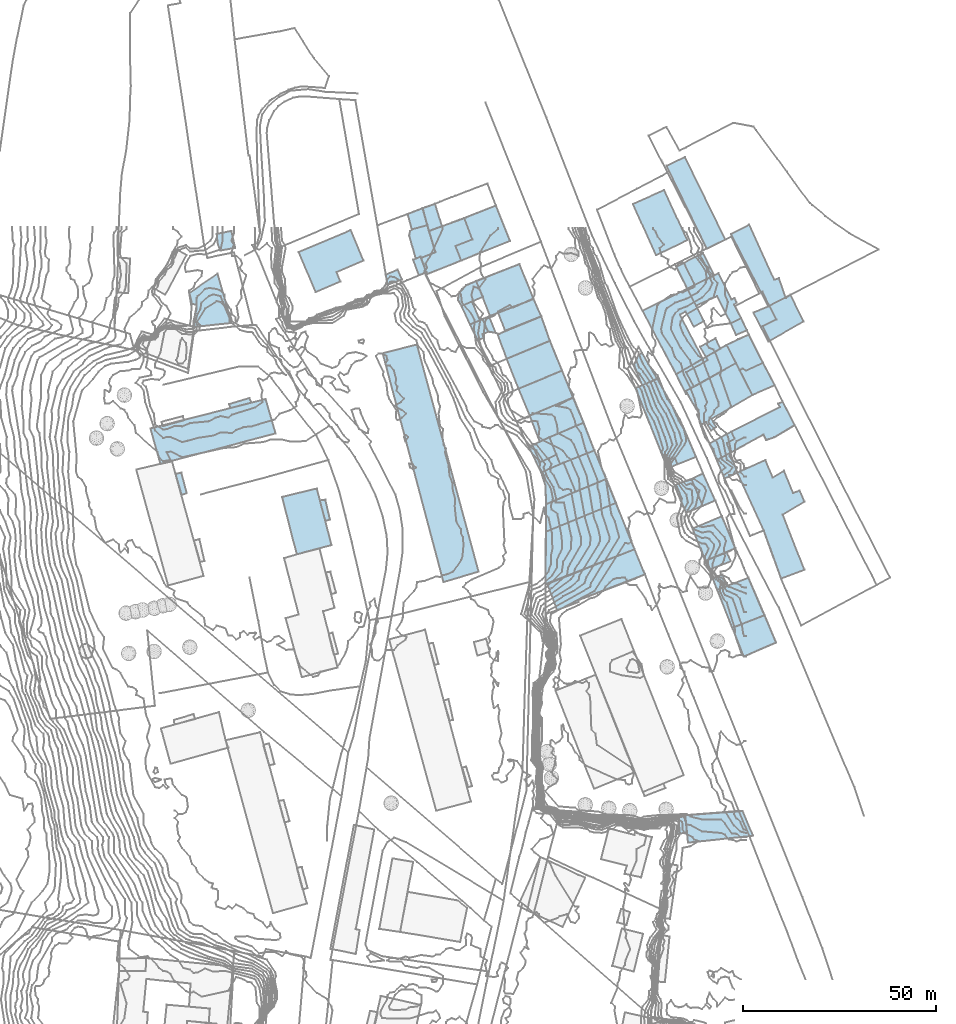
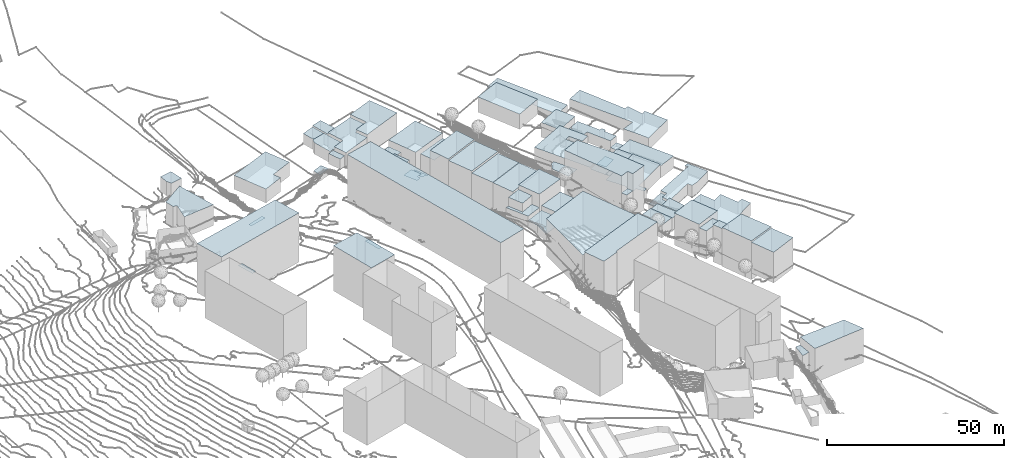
# Not in any storey, part 96 of 419: 61 roofs.
"""IFC2X3 model written with IfcOpenShell, lengths in metres."""

from ifc_helpers import new_model, si_unit, frame, origin_with_axes, place, context, subcontext, project, faceted_brep, element, save


model = new_model("IFC2X3")

# Units and contexts
model_context = context("Model", 3, precision=1e-05, world=origin_with_axes())
body_context = subcontext(model_context, "Body", "Model", "MODEL_VIEW")
ifc_project = project(units=[si_unit("AREAUNIT", "SQUARE_METRE"), si_unit("LENGTHUNIT", "METRE")], contexts=[model_context])

# Roofs
roof_1_placement = place(None, frame((892.1920204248, 1024.3976909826, 92.1908016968), z_axis=(0.0, 0.0, 1.0), x_axis=(1.0, 0.0, 0.0)))
element("IfcRoof", 1, at=roof_1_placement, Name="Toiture 0", ShapeType="NOTDEFINED", context=body_context, shape_type="Brep", body=[
    faceted_brep([(0.0, 0.0, 5.6091983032), (1.5, -4.2000000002, 5.6091983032), (10.4, -0.7000000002, 5.6091983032), (8.9, 3.0999999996, 5.6091983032), (13.3, 4.7999999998, 5.6091983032), (11.2000000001, 10.2999999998, 5.6091983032), (2.0, 7.0, 5.6091983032), (3.7000000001, 1.5, 5.6091983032)], [[[0, 1, 2]], [[3, 4, 5]], [[5, 6, 7]], [[7, 0, 2]], [[3, 5, 7]], [[7, 2, 3]]]),
])
roof_2_placement = place(None, frame((882.1920204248, 999.5976909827, 97.1549987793), z_axis=(0.0, 0.0, 1.0), x_axis=(1.0, 0.0, 0.0)))
element("IfcRoof", 2, at=roof_2_placement, Name="Toiture 0", ShapeType="NOTDEFINED", context=body_context, shape_type="Brep", body=[
    faceted_brep([(15.8, -59.4000000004, 16.5450012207), (24.9, -56.7000000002, 16.5450012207), (8.9, 2.2999999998, 16.5450012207), (0.0, 0.0, 16.5450012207)], [[[0, 1, 2]], [[2, 3, 0]]]),
])
roof_3_placement = place(None, frame((947.4920204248, 996.6976909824, 83.0450018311), z_axis=(0.0, 0.0, 1.0), x_axis=(1.0, 0.0, 0.0)))
element("IfcRoof", 3, at=roof_3_placement, Name="Toiture 0", ShapeType="NOTDEFINED", context=body_context, shape_type="Brep", body=[
    faceted_brep([(0.0, 0.0, 4.5549981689), (2.1, -5.3999999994, 4.5549981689), (6.0, -3.7000000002, 4.5549981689), (2.1, 3.0, 4.5549981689), (1.1, 2.4000000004, 4.5549981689)], [[[0, 1, 2]], [[2, 3, 4]], [[4, 0, 2]]]),
])
roof_4_placement = place(None, frame((962.6920204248, 954.0976909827, 81.8764016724), z_axis=(0.0, 0.0, 1.0), x_axis=(1.0, 0.0, 0.0)))
element("IfcRoof", 4, at=roof_4_placement, Name="Toiture 0", ShapeType="NOTDEFINED", context=body_context, shape_type="Brep", body=[
    faceted_brep([(11.1, -5.1000000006, 11.0235983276), (7.6, 3.2000000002, 11.0235983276), (0.0, 0.0, 11.0235983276), (3.3, -8.4000000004, 11.0235983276)], [[[0, 1, 2]], [[2, 3, 0]]]),
])
roof_5_placement = place(None, frame((974.2920204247, 968.5976909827, 77.5850028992), z_axis=(0.0, 0.0, 1.0), x_axis=(1.0, 0.0, 0.0)))
element("IfcRoof", 5, at=roof_5_placement, Name="Toiture 0", ShapeType="NOTDEFINED", context=body_context, shape_type="Brep", body=[
    faceted_brep([(11.4, -27.5, 4.4149971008), (17.4, -25.2000000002, 4.4149971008), (11.8, -10.9000000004, 4.4149971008), (17.4, -7.5, 4.4149971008), (16.2000000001, -4.6000000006, 4.4149971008), (14.5, -5.2999999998, 4.4149971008), (12.1000000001, 0.5, 4.4149971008), (9.2000000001, -1.2999999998, 4.4149971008), (7.3, 3.2999999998, 4.4149971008), (0.0, 0.0, 4.4149971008), (6.9, -15.0, 4.4149971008)], [[[0, 1, 2]], [[2, 3, 4]], [[5, 6, 7]], [[7, 8, 9]], [[10, 0, 2]], [[2, 4, 5]], [[5, 7, 9]], [[9, 10, 2]], [[2, 5, 9]]]),
])
roof_6_placement = place(None, frame((924.4920204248, 939.6976909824, 87.7650001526), z_axis=(0.0, 0.0, 1.0), x_axis=(1.0, 0.0, 0.0)))
element("IfcRoof", 6, at=roof_6_placement, Name="Toiture 0", ShapeType="NOTDEFINED", context=body_context, shape_type="Brep", body=[
    faceted_brep([(0.0, 0.0, 12.7349998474), (23.1, 9.0, 12.7349998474), (15.7999999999, 27.2999999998, 12.7349998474), (0.1, 20.7000000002, 12.7349998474)], [[[0, 1, 2]], [[2, 3, 0]]]),
])
roof_7_placement = place(None, frame((912.0920204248, 1004.4976909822, 90.4650001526), z_axis=(0.0, 0.0, 1.0), x_axis=(1.0, 0.0, 0.0)))
element("IfcRoof", 7, at=roof_7_placement, Name="Toiture 0", ShapeType="NOTDEFINED", context=body_context, shape_type="Brep", body=[
    faceted_brep([(0.0, 0.0, 11.2349998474), (2.3, -6.2999999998, 11.2349998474), (13.5, -1.5999999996, 11.2349998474), (11.3, 4.7000000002, 11.2349998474)], [[[0, 1, 2]], [[2, 3, 0]]]),
])
roof_8_placement = place(None, frame((912.1920204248, 1010.1976909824, 90.6355996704), z_axis=(0.0, 0.0, 1.0), x_axis=(1.0, 0.0, 0.0)))
element("IfcRoof", 8, at=roof_8_placement, Name="Toiture 0", ShapeType="NOTDEFINED", context=body_context, shape_type="Brep", body=[
    faceted_brep([(1.8, -4.7000000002, 6.3644003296), (11.2000000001, -1.0, 6.3644003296), (9.2000000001, 3.5, 6.3644003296), (0.0, 0.0, 6.3644003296)], [[[0, 1, 2]], [[2, 3, 0]]]),
])
roof_9_placement = place(None, frame((906.4920204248, 1018.3976909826, 90.8884008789), z_axis=(0.0, 0.0, 1.0), x_axis=(1.0, 0.0, 0.0)))
element("IfcRoof", 9, at=roof_9_placement, Name="Toiture 0", ShapeType="NOTDEFINED", context=body_context, shape_type="Brep", body=[
    faceted_brep([(3.6, -9.0999999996, 7.9115991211), (14.9, -4.7000000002, 7.9115991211), (11.2, 4.4000000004, 7.9115991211), (0.0, 0.0, 7.9115991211)], [[[0, 1, 2]], [[2, 3, 0]]]),
])
roof_10_placement = place(None, frame((888.6920204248, 1035.7976909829, 93.0879974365), z_axis=(0.0, 0.0, 1.0), x_axis=(1.0, 0.0, 0.0)))
element("IfcRoof", 10, at=roof_10_placement, Name="Toiture 0", ShapeType="NOTDEFINED", context=body_context, shape_type="Brep", body=[
    faceted_brep([(0.0, 0.0, 3.6120025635), (1.1, -4.0, 3.6120025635), (5.1, -2.9000000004, 3.6120025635), (3.9, 1.5, 3.6120025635)], [[[0, 1, 2]], [[2, 3, 0]]]),
])
roof_11_placement = place(None, frame((964.5920204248, 1001.2976909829, 78.8149993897), z_axis=(0.0, 0.0, 1.0), x_axis=(1.0, 0.0, 0.0)))
element("IfcRoof", 11, at=roof_11_placement, Name="Toiture 0", ShapeType="NOTDEFINED", context=body_context, shape_type="Brep", body=[
    faceted_brep([(1.6, -2.6000000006, 1.6850006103), (5.3, -0.5, 1.6850006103), (4.0, 2.1999999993, 1.6850006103), (0.0, 0.0, 1.6850006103)], [[[0, 1, 2]], [[2, 3, 0]]]),
])
roof_12_placement = place(None, frame((889.0920204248, 1030.1976909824, 92.8774974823), z_axis=(0.0, 0.0, 1.0), x_axis=(1.0, 0.0, 0.0)))
element("IfcRoof", 12, at=roof_12_placement, Name="Toiture 0", ShapeType="NOTDEFINED", context=body_context, shape_type="Brep", body=[
    faceted_brep([(2.9, -5.5, 3.9225025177), (3.1, -5.7999999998, 3.9225025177), (6.8, -4.2999999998, 3.9225025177), (4.7, 2.7000000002, 3.9225025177), (0.7, 1.6000000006, 3.9225025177), (0.2, 1.1000000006, 3.9225025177), (0.0, 0.0, 3.9225025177), (1.7, -6.0, 3.9225025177)], [[[0, 1, 2]], [[2, 3, 4]], [[4, 5, 6]], [[6, 7, 0]], [[0, 2, 4]], [[4, 6, 0]]]),
])
roof_13_placement = place(None, frame((865.8920204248, 961.3976909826, 98.3867999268), z_axis=(0.0, 0.0, 1.0), x_axis=(1.0, 0.0, 0.0)))
element("IfcRoof", 13, at=roof_13_placement, Name="Toiture 0", ShapeType="NOTDEFINED", context=body_context, shape_type="Brep", body=[
    faceted_brep([(1.3999999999, 0.2000000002, 14.3132000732), (0.0, 0.0, 14.3132000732), (1.3999999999, -5.2999999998, 14.3132000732), (2.6, -5.0, 14.3132000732)], [[[0, 1, 2]], [[2, 3, 0]]]),
])
roof_14_placement = place(None, frame((892.5920204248, 1037.2976909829, 92.9800033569), z_axis=(0.0, 0.0, 1.0), x_axis=(1.0, 0.0, 0.0)))
element("IfcRoof", 14, at=roof_14_placement, Name="Toiture 0", ShapeType="NOTDEFINED", context=body_context, shape_type="Brep", body=[
    faceted_brep([(0.0, 0.0, 4.2199966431), (1.6, -5.9000000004, 4.2199966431), (5.0, -4.7000000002, 4.2199966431), (3.2, 1.0999999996, 4.2199966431)], [[[0, 1, 2]], [[2, 3, 0]]]),
])
roof_15_placement = place(None, frame((971.4920204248, 1001.7976909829, 78.444997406), z_axis=(0.0, 0.0, 1.0), x_axis=(1.0, 0.0, 0.0)))
element("IfcRoof", 15, at=roof_15_placement, Name="Toiture 0", ShapeType="NOTDEFINED", context=body_context, shape_type="Brep", body=[
    faceted_brep([(3.4, -6.5, 4.155002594), (6.7, -13.0, 4.155002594), (12.5, -10.5, 4.155002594), (5.7999999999, 2.6999999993, 4.155002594), (0.0, 0.0, 4.155002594)], [[[0, 1, 2]], [[2, 3, 4]], [[4, 0, 2]]]),
])
roof_16_placement = place(None, frame((957.9920204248, 965.2976909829, 82.3867994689), z_axis=(0.0, 0.0, 1.0), x_axis=(1.0, 0.0, 0.0)))
element("IfcRoof", 16, at=roof_16_placement, Name="Toiture 0", ShapeType="NOTDEFINED", context=body_context, shape_type="Brep", body=[
    faceted_brep([(7.2999999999, -5.3000000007, 4.4132005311), (4.4, 1.6999999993, 4.4132005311), (0.0, 0.0, 4.4132005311), (3.0, -7.1000000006, 4.4132005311)], [[[0, 1, 2]], [[2, 3, 0]]]),
])
roof_17_placement = place(None, frame((914.3920204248, 998.1976909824, 90.1960023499), z_axis=(0.0, 0.0, 1.0), x_axis=(1.0, 0.0, 0.0)))
element("IfcRoof", 17, at=roof_17_placement, Name="Toiture 0", ShapeType="NOTDEFINED", context=body_context, shape_type="Brep", body=[
    faceted_brep([(0.0, 0.0, 11.0039976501), (3.1, -7.7999999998, 11.0039976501), (14.3999999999, -3.0999999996, 11.0039976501), (11.2, 4.7000000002, 11.0039976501)], [[[0, 1, 2]], [[2, 3, 0]]]),
])
roof_18_placement = place(None, frame((972.9920204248, 928.2976909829, 84.2059982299), z_axis=(0.0, 0.0, 1.0), x_axis=(1.0, 0.0, 0.0)))
element("IfcRoof", 18, at=roof_18_placement, Name="Toiture 0", ShapeType="NOTDEFINED", context=body_context, shape_type="Brep", body=[
    faceted_brep([(11.4, -3.8000000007, 10.5940017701), (8.4, 3.2999999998, 10.5940017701), (0.0, 0.0, 10.5940017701), (3.0, -7.4000000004, 10.5940017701)], [[[0, 1, 2]], [[2, 3, 0]]]),
])
roof_19_placement = place(None, frame((882.9920204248, 1019.9976909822, 93.1930023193), z_axis=(0.0, 0.0, 1.0), x_axis=(1.0, 0.0, 0.0)))
element("IfcRoof", 19, at=roof_19_placement, Name="Toiture 0", ShapeType="NOTDEFINED", context=body_context, shape_type="Brep", body=[
    faceted_brep([(0.0, 0.0, 2.2069976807), (0.5, -2.5999999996, 2.2069976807), (4.2, -1.1999999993, 2.2069976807), (3.1, 1.3000000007, 2.2069976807)], [[[0, 1, 2]], [[2, 3, 0]]]),
])
roof_20_placement = place(None, frame((972.6920204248, 1030.5976909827, 78.3390022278), z_axis=(0.0, 0.0, 1.0), x_axis=(1.0, 0.0, 0.0)))
element("IfcRoof", 20, at=roof_20_placement, Name="Toiture 0", ShapeType="NOTDEFINED", context=body_context, shape_type="Brep", body=[
    faceted_brep([(9.7000000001, -18.7999999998, 4.0609977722), (5.8, -20.4000000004, 4.0609977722), (9.7000000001, -27.9000000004, 4.0609977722), (18.8, -22.7000000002, 4.0609977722), (15.4, -15.7999999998, 4.0609977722), (14.2000000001, -16.6000000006, 4.0609977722), (12.4, -11.5, 4.0609977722), (11.2000000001, -11.9000000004, 4.0609977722), (4.7000000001, 2.3999999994, 4.0609977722), (0.0, 0.0, 4.0609977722)], [[[0, 1, 2]], [[2, 3, 4]], [[5, 6, 7]], [[7, 8, 9]], [[2, 4, 5]], [[5, 7, 9]], [[0, 2, 5]], [[5, 9, 0]]]),
])
roof_21_placement = place(None, frame((961.2920204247, 1016.3976909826, 78.4847021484), z_axis=(0.0, 0.0, 1.0), x_axis=(1.0, 0.0, 0.0)))
element("IfcRoof", 21, at=roof_21_placement, Name="Toiture 0", ShapeType="NOTDEFINED", context=body_context, shape_type="Brep", body=[
    faceted_brep([(11.3, -9.0, 3.5152978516), (14.0, -7.7000000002, 3.5152978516), (12.2000000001, -4.0999999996, 3.5152978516), (12.8, -3.5999999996, 3.5152978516), (12.3, -2.4000000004, 3.5152978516), (11.5, -2.7999999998, 3.5152978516), (8.1000000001, 4.0, 3.5152978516), (0.0, 0.0, 3.5152978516), (2.3, -4.4000000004, 3.5152978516), (7.8, -1.9000000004, 3.5152978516)], [[[0, 1, 2]], [[2, 3, 4]], [[5, 6, 7]], [[7, 8, 9]], [[9, 0, 2]], [[2, 4, 5]], [[5, 7, 9]], [[9, 2, 5]]]),
])
roof_22_placement = place(None, frame((921.0920204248, 975.7976909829, 91.6154002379), z_axis=(0.0, 0.0, 1.0), x_axis=(1.0, 0.0, 0.0)))
element("IfcRoof", 22, at=roof_22_placement, Name="Toiture 0", ShapeType="NOTDEFINED", context=body_context, shape_type="Brep", body=[
    faceted_brep([(2.0, -4.5, 8.0845997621), (6.2, -2.5, 8.0845997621), (4.4, 2.0, 8.0845997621), (0.0, 0.0, 8.0845997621)], [[[0, 1, 2]], [[2, 3, 0]]]),
])
roof_23_placement = place(None, frame((908.1920204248, 1008.4976909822, 90.8799972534), z_axis=(0.0, 0.0, 1.0), x_axis=(1.0, 0.0, 0.0)))
element("IfcRoof", 23, at=roof_23_placement, Name="Toiture 0", ShapeType="NOTDEFINED", context=body_context, shape_type="Brep", body=[
    faceted_brep([(0.0, 0.0, 2.1200027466), (1.4, -3.2999999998, 2.1200027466), (3.4, -3.5999999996, 2.1200027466), (1.6, 0.7000000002, 2.1200027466)], [[[0, 1, 2]], [[2, 3, 0]]]),
])
roof_24_placement = place(None, frame((960.9920204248, 994.6976909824, 78.6699987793), z_axis=(0.0, 0.0, 1.0), x_axis=(1.0, 0.0, 0.0)))
element("IfcRoof", 24, at=roof_24_placement, Name="Toiture 0", ShapeType="NOTDEFINED", context=body_context, shape_type="Brep", body=[
    faceted_brep([(2.1, -3.7999999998, 4.4300012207), (13.0, 2.4000000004, 4.4300012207), (10.5, 7.1000000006, 4.4300012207), (5.2, 4.0, 4.4300012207), (5.6, 3.1000000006, 4.4300012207), (0.0, 0.0, 4.4300012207)], [[[0, 1, 2]], [[2, 3, 4]], [[4, 5, 0]], [[0, 2, 4]]]),
])
roof_25_placement = place(None, frame((960.8920204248, 989.7976909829, 78.5979980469), z_axis=(0.0, 0.0, 1.0), x_axis=(1.0, 0.0, 0.0)))
element("IfcRoof", 25, at=roof_25_placement, Name="Toiture 0", ShapeType="NOTDEFINED", context=body_context, shape_type="Brep", body=[
    faceted_brep([(6.7, -7.2000000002, 4.7020019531), (17.2999999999, -1.0, 4.7020019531), (13.1, 7.2999999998, 4.7020019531), (0.0, 0.0, 4.7020019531), (3.5, -5.9000000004, 4.7020019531), (3.0, -6.1000000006, 4.7020019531), (4.1, -8.7000000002, 4.7020019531), (5.2999999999, -8.1000000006, 4.7020019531), (6.6, -10.2000000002, 4.7020019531), (7.8999999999, -9.4000000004, 4.7020019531)], [[[0, 1, 2]], [[2, 3, 4]], [[4, 5, 6]], [[7, 8, 9]], [[0, 2, 4]], [[4, 6, 7]], [[7, 9, 0]], [[0, 4, 7]]]),
])
roof_26_placement = place(None, frame((924.9920204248, 939.6976909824, 87.0495999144), z_axis=(0.0, 0.0, 1.0), x_axis=(1.0, 0.0, 0.0)))
element("IfcRoof", 26, at=roof_26_placement, Name="Toiture 0", ShapeType="NOTDEFINED", context=body_context, shape_type="Brep", body=[
    faceted_brep([(8.0, -4.2000000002, 14.3504000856), (25.2999999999, 2.5, 14.3504000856), (22.6, 9.0, 14.3504000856), (0.0, 0.0, 14.3504000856), (2.5, -6.7999999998, 14.3504000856), (8.0, -4.7000000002, 14.3504000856)], [[[0, 1, 2]], [[2, 3, 4]], [[4, 5, 0]], [[0, 2, 4]]]),
])
roof_27_placement = place(None, frame((967.8920204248, 941.1976909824, 82.0823989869), z_axis=(0.0, 0.0, 1.0), x_axis=(1.0, 0.0, 0.0)))
element("IfcRoof", 27, at=roof_27_placement, Name="Toiture 0", ShapeType="NOTDEFINED", context=body_context, shape_type="Brep", body=[
    faceted_brep([(1.2, -3.0, 12.8176010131), (3.7999999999, -2.0999999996, 12.8176010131), (2.5, 1.0, 12.8176010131), (0.0, 0.0, 12.8176010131)], [[[0, 1, 2]], [[2, 3, 0]]]),
])
roof_28_placement = place(None, frame((972.5920204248, 1007.3976909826, 78.3960006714), z_axis=(0.0, 0.0, 1.0), x_axis=(1.0, 0.0, 0.0)))
element("IfcRoof", 28, at=roof_28_placement, Name="Toiture 0", ShapeType="NOTDEFINED", context=body_context, shape_type="Brep", body=[
    faceted_brep([(1.4, -3.0, 1.3039993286), (4.2, -1.7999999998, 1.3039993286), (2.7, 1.2999999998, 1.3039993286), (0.0, 0.0, 1.3039993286)], [[[0, 1, 2]], [[2, 3, 0]]]),
])
roof_29_placement = place(None, frame((955.8920204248, 1048.2976909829, 79.4224011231), z_axis=(0.0, 0.0, 1.0), x_axis=(1.0, 0.0, 0.0)))
element("IfcRoof", 29, at=roof_29_placement, Name="Toiture 0", ShapeType="NOTDEFINED", context=body_context, shape_type="Brep", body=[
    faceted_brep([(10.5, -21.5, 2.2775988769), (15.2999999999, -19.1000000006, 2.2775988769), (4.7999999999, 2.2999999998, 2.2775988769), (0.0, 0.0, 2.2775988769)], [[[0, 1, 2]], [[2, 3, 0]]]),
])
roof_30_placement = place(None, frame((967.0920204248, 976.1976909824, 78.0299987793), z_axis=(0.0, 0.0, 1.0), x_axis=(1.0, 0.0, 0.0)))
element("IfcRoof", 30, at=roof_30_placement, Name="Toiture 0", ShapeType="NOTDEFINED", context=body_context, shape_type="Brep", body=[
    faceted_brep([(1.9, -4.2999999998, 2.9700012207), (5.4, -2.3999999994, 2.9700012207), (4.5, 0.1000000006, 2.9700012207), (6.5, 1.2000000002, 2.9700012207), (5.7, 3.1000000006, 2.9700012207), (0.0, 0.0, 2.9700012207)], [[[0, 1, 2]], [[2, 3, 4]], [[4, 5, 0]], [[0, 2, 4]]]),
])
roof_31_placement = place(None, frame((947.1920204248, 1038.3976909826, 82.0492008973), z_axis=(0.0, 0.0, 1.0), x_axis=(1.0, 0.0, 0.0)))
element("IfcRoof", 31, at=roof_31_placement, Name="Toiture 0", ShapeType="NOTDEFINED", context=body_context, shape_type="Brep", body=[
    faceted_brep([(14.1, -9.4000000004, 5.2507991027), (8.1, 3.5999999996, 5.2507991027), (0.0, 0.0, 5.2507991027), (6.0, -13.2999999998, 5.2507991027)], [[[0, 1, 2]], [[2, 3, 0]]]),
])
roof_32_placement = place(None, frame((965.9920204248, 945.6976909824, 81.9380035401), z_axis=(0.0, 0.0, 1.0), x_axis=(1.0, 0.0, 0.0)))
element("IfcRoof", 32, at=roof_32_placement, Name="Toiture 0", ShapeType="NOTDEFINED", context=body_context, shape_type="Brep", body=[
    faceted_brep([(5.6, 2.2000000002, 9.7619964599), (0.0, 0.0, 9.7619964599), (1.0, -2.2999999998, 9.7619964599), (6.6, -0.0999999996, 9.7619964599)], [[[0, 1, 2]], [[2, 3, 0]]]),
])
roof_33_placement = place(None, frame((920.0920204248, 975.4976909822, 92.5652994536), z_axis=(0.0, 0.0, 1.0), x_axis=(1.0, 0.0, 0.0)))
element("IfcRoof", 33, at=roof_33_placement, Name="Toiture 0", ShapeType="NOTDEFINED", context=body_context, shape_type="Brep", body=[
    faceted_brep([(3.3, -6.7999999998, 4.1347005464), (8.2, -4.6999999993, 4.1347005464), (7.2, -2.1999999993, 4.1347005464), (3.0, -4.1999999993, 4.1347005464), (1.0, 0.3000000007, 4.1347005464), (0.0, 0.0, 4.1347005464)], [[[0, 1, 2]], [[3, 4, 5]], [[0, 2, 3]], [[3, 5, 0]]]),
])
roof_34_placement = place(None, frame((955.4920204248, 971.4976909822, 82.5692007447), z_axis=(0.0, 0.0, 1.0), x_axis=(1.0, 0.0, 0.0)))
element("IfcRoof", 34, at=roof_34_placement, Name="Toiture 0", ShapeType="NOTDEFINED", context=body_context, shape_type="Brep", body=[
    faceted_brep([(2.6, 1.0, 9.2307992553), (0.0, 0.0, 9.2307992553), (0.7999999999, -1.6999999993, 9.2307992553), (3.2999999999, -0.6999999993, 9.2307992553)], [[[0, 1, 2]], [[2, 3, 0]]]),
])
roof_35_placement = place(None, frame((958.3920204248, 994.1976909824, 79.5119995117), z_axis=(0.0, 0.0, 1.0), x_axis=(1.0, 0.0, 0.0)))
element("IfcRoof", 35, at=roof_35_placement, Name="Toiture 0", ShapeType="NOTDEFINED", context=body_context, shape_type="Brep", body=[
    faceted_brep([(8.2, 3.6000000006, 5.7880004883), (7.7999999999, 4.5, 5.7880004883), (0.0, 0.0, 5.7880004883), (2.6, -5.2000000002, 5.7880004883), (2.8999999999, -4.8999999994, 5.7880004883), (2.5, -4.3999999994, 5.7880004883), (4.7, -3.2999999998, 5.7880004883), (2.6, 0.5, 5.7880004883)], [[[0, 1, 2]], [[3, 4, 5]], [[5, 6, 7]], [[7, 0, 2]], [[2, 3, 5]], [[5, 7, 2]]]),
])
roof_36_placement = place(None, frame((901.7920204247, 1013.4976909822, 91.6666029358), z_axis=(0.0, 0.0, 1.0), x_axis=(1.0, 0.0, 0.0)))
element("IfcRoof", 36, at=roof_36_placement, Name="Toiture 0", ShapeType="NOTDEFINED", context=body_context, shape_type="Brep", body=[
    faceted_brep([(0.0, 0.0, 4.8333970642), (0.9, -1.5999999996, 4.8333970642), (6.4, 0.8000000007, 4.8333970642), (4.7000000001, 4.9000000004, 4.8333970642), (2.1000000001, 3.8000000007, 4.8333970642), (0.1000000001, 1.5, 4.8333970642)], [[[0, 1, 2]], [[2, 3, 4]], [[4, 5, 0]], [[0, 2, 4]]]),
])
roof_37_placement = place(None, frame((968.9920204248, 971.8976909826, 78.5275988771), z_axis=(0.0, 0.0, 1.0), x_axis=(1.0, 0.0, 0.0)))
element("IfcRoof", 37, at=roof_37_placement, Name="Toiture 0", ShapeType="NOTDEFINED", context=body_context, shape_type="Brep", body=[
    faceted_brep([(5.2999999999, -3.2999999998, 4.1724011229), (3.5, 1.9000000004, 4.1724011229), (0.0, 0.0, 4.1724011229), (2.0, -4.7999999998, 4.1724011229)], [[[0, 1, 2]], [[2, 3, 0]]]),
])
roof_38_placement = place(None, frame((904.8920204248, 1007.0976909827, 90.8559997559), z_axis=(0.0, 0.0, 1.0), x_axis=(1.0, 0.0, 0.0)))
element("IfcRoof", 38, at=roof_38_placement, Name="Toiture 0", ShapeType="NOTDEFINED", context=body_context, shape_type="Brep", body=[
    faceted_brep([(0.0, 0.0, 3.1440002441), (2.0, -4.1000000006, 3.1440002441), (3.5, -3.5, 3.1440002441), (3.2, -2.5, 3.1440002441), (4.7, -1.9000000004, 3.1440002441), (3.2999999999, 1.3999999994, 3.1440002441)], [[[0, 1, 2]], [[3, 4, 5]], [[0, 2, 3]], [[3, 5, 0]]]),
])
roof_39_placement = place(None, frame((962.3920204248, 966.9976909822, 82.1699981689), z_axis=(0.0, 0.0, 1.0), x_axis=(1.0, 0.0, 0.0)))
element("IfcRoof", 39, at=roof_39_placement, Name="Toiture 0", ShapeType="NOTDEFINED", context=body_context, shape_type="Brep", body=[
    faceted_brep([(6.2, -5.5999999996, 4.3300018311), (3.0, 1.4000000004, 4.3300018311), (0.0, 0.0, 4.3300018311), (2.8999999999, -7.0, 4.3300018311)], [[[0, 1, 2]], [[2, 3, 0]]]),
])
roof_40_placement = place(None, frame((839.0920204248, 1030.5976909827, 97.3080024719), z_axis=(0.0, 0.0, 1.0), x_axis=(1.0, 0.0, 0.0)))
element("IfcRoof", 40, at=roof_40_placement, Name="Toiture 0", ShapeType="NOTDEFINED", context=body_context, shape_type="Brep", body=[
    faceted_brep([(3.8, 0.7999999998, 4.9919975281), (0.0, 0.0, 4.9919975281), (0.3, -2.7999999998, 4.9919975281), (1.0, -4.2999999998, 4.9919975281), (4.8, -3.6000000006, 4.9919975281)], [[[0, 1, 2]], [[2, 3, 4]], [[4, 0, 2]]]),
])
roof_41_placement = place(None, frame((923.3920204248, 968.6976909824, 92.3469001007), z_axis=(0.0, 0.0, 1.0), x_axis=(1.0, 0.0, 0.0)))
element("IfcRoof", 41, at=roof_41_placement, Name="Toiture 0", ShapeType="NOTDEFINED", context=body_context, shape_type="Brep", body=[
    faceted_brep([(1.1, -3.3999999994, 2.8530998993), (1.2, -8.2999999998, 2.8530998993), (8.8999999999, -5.0, 2.8530998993), (5.7999999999, 2.5, 2.8530998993), (0.0, 0.0, 2.8530998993)], [[[0, 1, 2]], [[2, 3, 4]], [[4, 0, 2]]]),
])
roof_42_placement = place(None, frame((890.0920204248, 1023.8976909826, 92.97780159), z_axis=(0.0, 0.0, 1.0), x_axis=(1.0, 0.0, 0.0)))
element("IfcRoof", 42, at=roof_42_placement, Name="Toiture 0", ShapeType="NOTDEFINED", context=body_context, shape_type="Brep", body=[
    faceted_brep([(1.5, -4.0, 3.52219841), (3.4, -3.2000000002, 3.52219841), (1.9, 0.7999999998, 3.52219841), (0.0, 0.0, 3.52219841)], [[[0, 1, 2]], [[2, 3, 0]]]),
])
roof_43_placement = place(None, frame((828.3920204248, 968.2976909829, 98.6175973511), z_axis=(0.0, 0.0, 1.0), x_axis=(1.0, 0.0, 0.0)))
element("IfcRoof", 43, at=roof_43_placement, Name="Toiture 0", ShapeType="NOTDEFINED", context=body_context, shape_type="Brep", body=[
    faceted_brep([(1.5, 0.2999999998, 14.5824026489), (0.0, 0.0, 14.5824026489), (1.6, -5.5, 14.5824026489), (2.8999999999, -5.0, 14.5824026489)], [[[0, 1, 2]], [[2, 3, 0]]]),
])
roof_44_placement = place(None, frame((821.8920204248, 980.0976909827, 98.9060024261), z_axis=(0.0, 0.0, 1.0), x_axis=(1.0, 0.0, 0.0)))
element("IfcRoof", 44, at=roof_44_placement, Name="Toiture 0", ShapeType="NOTDEFINED", context=body_context, shape_type="Brep", body=[
    faceted_brep([(0.0, 0.0, 16.9939975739), (2.6, -9.2000000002, 16.9939975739), (32.5, -1.2999999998, 16.9939975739), (29.8999999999, 7.5999999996, 16.9939975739)], [[[0, 1, 2]], [[2, 3, 0]]]),
])
roof_45_placement = place(None, frame((929.1920204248, 971.1976909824, 88.7488006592), z_axis=(0.0, 0.0, 1.0), x_axis=(1.0, 0.0, 0.0)))
element("IfcRoof", 45, at=roof_45_placement, Name="Toiture 0", ShapeType="NOTDEFINED", context=body_context, shape_type="Brep", body=[
    faceted_brep([(0.0, 0.0, 8.0511993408), (3.1, -7.5, 8.0511993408), (11.1, -4.2000000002, 8.0511993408), (8.0, 3.2000000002, 8.0511993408)], [[[0, 1, 2]], [[2, 3, 0]]]),
])
roof_46_placement = place(None, frame((920.3920204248, 983.3976909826, 89.4335995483), z_axis=(0.0, 0.0, 1.0), x_axis=(1.0, 0.0, 0.0)))
element("IfcRoof", 46, at=roof_46_placement, Name="Toiture 0", ShapeType="NOTDEFINED", context=body_context, shape_type="Brep", body=[
    faceted_brep([(0.0, 0.0, 10.9664004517), (2.6, -6.7000000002, 10.9664004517), (14.0, -1.7999999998, 10.9664004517), (11.2999999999, 4.7999999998, 10.9664004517)], [[[0, 1, 2]], [[2, 3, 0]]]),
])
roof_47_placement = place(None, frame((958.7920204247, 874.6976909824, 87.3464007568), z_axis=(0.0, 0.0, 1.0), x_axis=(1.0, 0.0, 0.0)))
element("IfcRoof", 47, at=roof_47_placement, Name="Toiture 0", ShapeType="NOTDEFINED", context=body_context, shape_type="Brep", body=[
    faceted_brep([(2.4, 0.5, 5.8535992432), (2.0, 4.9000000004, 5.8535992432), (0.4, 4.7000000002, 5.8535992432), (0.0, 0.0, 5.8535992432)], [[[0, 1, 2]], [[2, 3, 0]]]),
])
roof_48_placement = place(None, frame((958.4920204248, 1022.0976909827, 79.365800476), z_axis=(0.0, 0.0, 1.0), x_axis=(1.0, 0.0, 0.0)))
element("IfcRoof", 48, at=roof_48_placement, Name="Toiture 0", ShapeType="NOTDEFINED", context=body_context, shape_type="Brep", body=[
    faceted_brep([(6.9, 3.5999999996, 5.034199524), (0.0, 0.0, 5.034199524), (2.7999999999, -5.7000000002, 5.034199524), (9.7999999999, -2.2000000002, 5.034199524)], [[[0, 1, 2]], [[2, 3, 0]]]),
])
roof_49_placement = place(None, frame((971.5920204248, 976.2976909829, 77.8119995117), z_axis=(0.0, 0.0, 1.0), x_axis=(1.0, 0.0, 0.0)))
element("IfcRoof", 49, at=roof_49_placement, Name="Toiture 0", ShapeType="NOTDEFINED", context=body_context, shape_type="Brep", body=[
    faceted_brep([(12.3, 1.5, 3.9880004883), (17.6, 4.6999999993, 3.9880004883), (14.5, 10.7999999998, 3.9880004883), (13.3, 10.1999999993, 3.9880004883), (13.8, 9.3999999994, 3.9880004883), (1.2, 3.0, 3.9880004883), (2.0, 1.0999999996, 3.9880004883), (0.0, 0.0, 3.9880004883), (0.9, -2.5, 3.9880004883), (9.5, 2.1999999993, 3.9880004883), (10.2, 0.7999999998, 3.9880004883)], [[[0, 1, 2]], [[2, 3, 4]], [[4, 5, 6]], [[6, 7, 8]], [[9, 10, 0]], [[0, 2, 4]], [[4, 6, 8]], [[9, 0, 4]], [[4, 8, 9]]]),
])
roof_50_placement = place(None, frame((856.0920204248, 962.2976909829, 98.3881991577), z_axis=(0.0, 0.0, 1.0), x_axis=(1.0, 0.0, 0.0)))
element("IfcRoof", 50, at=roof_50_placement, Name="Toiture 0", ShapeType="NOTDEFINED", context=body_context, shape_type="Brep", body=[
    faceted_brep([(0.0, 0.0, 15.6118008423), (3.8, -14.9000000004, 15.6118008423), (12.8, -12.5, 15.6118008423), (9.0, 2.1999999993, 15.6118008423)], [[[0, 1, 2]], [[2, 3, 0]]]),
])
roof_51_placement = place(None, frame((842.2920204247, 986.3976909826, 101.1699996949), z_axis=(0.0, 0.0, 1.0), x_axis=(1.0, 0.0, 0.0)))
element("IfcRoof", 51, at=roof_51_placement, Name="Toiture 0", ShapeType="NOTDEFINED", context=body_context, shape_type="Brep", body=[
    faceted_brep([(0.4, -1.0, 10.3300003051), (5.8, 0.4000000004, 10.3300003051), (5.3, 1.5999999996, 10.3300003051), (0.0, 0.0, 10.3300003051)], [[[0, 1, 2]], [[2, 3, 0]]]),
])
roof_52_placement = place(None, frame((902.6920204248, 1011.8976909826, 91.6327993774), z_axis=(0.0, 0.0, 1.0), x_axis=(1.0, 0.0, 0.0)))
element("IfcRoof", 52, at=roof_52_placement, Name="Toiture 0", ShapeType="NOTDEFINED", context=body_context, shape_type="Brep", body=[
    faceted_brep([(0.0, 0.0, 6.0672006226), (2.2000000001, -4.7999999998, 6.0672006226), (4.7000000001, -3.7000000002, 6.0672006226), (2.7000000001, 1.2000000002, 6.0672006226)], [[[0, 1, 2]], [[2, 3, 0]]]),
])
roof_53_placement = place(None, frame((901.0920204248, 1027.4976909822, 91.4766018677), z_axis=(0.0, 0.0, 1.0), x_axis=(1.0, 0.0, 0.0)))
element("IfcRoof", 53, at=roof_53_placement, Name="Toiture 0", ShapeType="NOTDEFINED", context=body_context, shape_type="Brep", body=[
    faceted_brep([(0.0, 0.0, 7.3233981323), (1.5, -3.7999999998, 7.3233981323), (14.2, 1.3000000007, 7.3233981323), (10.5, 10.5, 7.3233981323), (2.3, 7.2000000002, 7.3233981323), (4.4, 1.7000000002, 7.3233981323)], [[[0, 1, 2]], [[2, 3, 4]], [[5, 0, 2]], [[2, 4, 5]]]),
])
roof_54_placement = place(None, frame((947.8920204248, 990.5976909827, 82.4650024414), z_axis=(0.0, 0.0, 1.0), x_axis=(1.0, 0.0, 0.0)))
element("IfcRoof", 54, at=roof_54_placement, Name="Toiture 0", ShapeType="NOTDEFINED", context=body_context, shape_type="Brep", body=[
    faceted_brep([(5.6, 2.3999999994, 15.2349975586), (0.0, 0.0, 15.2349975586), (7.6, -19.1000000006, 15.2349975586), (10.2, -18.1000000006, 15.2349975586), (10.8999999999, -19.7999999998, 15.2349975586), (15.7, -17.9000000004, 15.2349975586), (11.5, -8.2000000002, 15.2349975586)], [[[0, 1, 2]], [[3, 4, 5]], [[5, 6, 0]], [[0, 2, 3]], [[3, 5, 0]]]),
])
roof_55_placement = place(None, frame((949.6920204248, 1010.6976909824, 79.1320007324), z_axis=(0.0, 0.0, 1.0), x_axis=(1.0, 0.0, 0.0)))
element("IfcRoof", 55, at=roof_55_placement, Name="Toiture 0", ShapeType="NOTDEFINED", context=body_context, shape_type="Brep", body=[
    faceted_brep([(15.9, -2.7000000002, 6.6679992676), (13.9, 1.2999999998, 6.6679992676), (11.6, 5.7000000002, 6.6679992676), (0.0, 0.0, 6.6679992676), (8.7000000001, -16.5, 6.6679992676), (15.6, -12.5, 6.6679992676), (11.2000000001, -0.2000000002, 6.6679992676), (13.3, -4.2000000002, 6.6679992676), (9.7000000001, -1.0, 6.6679992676)], [[[0, 1, 2]], [[3, 4, 5]], [[6, 7, 0]], [[3, 5, 8]], [[6, 0, 2]], [[2, 3, 8]], [[8, 6, 2]]]),
])
roof_56_placement = place(None, frame((925.4920204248, 977.7976909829, 89.0659988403), z_axis=(0.0, 0.0, 1.0), x_axis=(1.0, 0.0, 0.0)))
element("IfcRoof", 56, at=roof_56_placement, Name="Toiture 0", ShapeType="NOTDEFINED", context=body_context, shape_type="Brep", body=[
    faceted_brep([(3.7, -6.6000000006, 12.2340011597), (11.7, -3.4000000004, 12.2340011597), (8.9, 3.7999999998, 12.2340011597), (0.0, 0.0, 12.2340011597), (2.7999999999, -7.0, 12.2340011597)], [[[0, 1, 2]], [[2, 3, 4]], [[4, 0, 2]]]),
])
roof_57_placement = place(None, frame((917.4920204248, 990.3976909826, 89.7562007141), z_axis=(0.0, 0.0, 1.0), x_axis=(1.0, 0.0, 0.0)))
element("IfcRoof", 57, at=roof_57_placement, Name="Toiture 0", ShapeType="NOTDEFINED", context=body_context, shape_type="Brep", body=[
    faceted_brep([(0.0, 0.0, 10.7437992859), (2.9, -7.0, 10.7437992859), (14.2, -2.2000000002, 10.7437992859), (11.2999999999, 4.7000000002, 10.7437992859)], [[[0, 1, 2]], [[2, 3, 0]]]),
])
roof_58_placement = place(None, frame((969.0920204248, 938.1976909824, 81.880997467), z_axis=(0.0, 0.0, 1.0), x_axis=(1.0, 0.0, 0.0)))
element("IfcRoof", 58, at=roof_58_placement, Name="Toiture 0", ShapeType="NOTDEFINED", context=body_context, shape_type="Brep", body=[
    faceted_brep([(12.3, -6.5999999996, 13.419002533), (8.1, 3.1000000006, 13.419002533), (0.0, 0.0, 13.419002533), (3.9, -9.8999999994, 13.419002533)], [[[0, 1, 2]], [[2, 3, 0]]]),
])
roof_59_placement = place(None, frame((831.9920204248, 1015.2976909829, 98.100199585), z_axis=(0.0, 0.0, 1.0), x_axis=(1.0, 0.0, 0.0)))
element("IfcRoof", 59, at=roof_59_placement, Name="Toiture 0", ShapeType="NOTDEFINED", context=body_context, shape_type="Brep", body=[
    faceted_brep([(0.9, -8.9000000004, 7.199800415), (11.0, -7.8000000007, 7.199800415), (7.2999999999, 5.0, 7.199800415), (0.0, 0.0, 7.199800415), (0.7, -2.9000000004, 7.199800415), (1.9, -3.1000000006, 7.199800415)], [[[0, 1, 2]], [[2, 3, 4]], [[5, 0, 2]], [[2, 4, 5]]]),
])
roof_60_placement = place(None, frame((860.3920204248, 1025.8976909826, 93.4082012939), z_axis=(0.0, 0.0, 1.0), x_axis=(1.0, 0.0, 0.0)))
element("IfcRoof", 60, at=roof_60_placement, Name="Toiture 0", ShapeType="NOTDEFINED", context=body_context, shape_type="Brep", body=[
    faceted_brep([(13.5, 5.7000000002, 4.7917987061), (0.0, 0.0, 4.7917987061), (4.3999999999, -10.4000000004, 4.7917987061), (10.7999999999, -7.5999999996, 4.7917987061), (9.7999999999, -5.2000000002, 4.7917987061), (16.7999999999, -2.2000000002, 4.7917987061)], [[[0, 1, 2]], [[2, 3, 4]], [[4, 5, 0]], [[0, 2, 4]]]),
])
roof_61_placement = place(None, frame((960.7920204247, 879.5976909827, 84.1680007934), z_axis=(0.0, 0.0, 1.0), x_axis=(1.0, 0.0, 0.0)))
element("IfcRoof", 61, at=roof_61_placement, Name="Toiture 0", ShapeType="NOTDEFINED", context=body_context, shape_type="Brep", body=[
    faceted_brep([(0.7000000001, -7.1000000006, 11.8319992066), (17.6000000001, -5.2999999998, 11.8319992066), (14.9, 1.0999999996, 11.8319992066), (0.0, 0.0, 11.8319992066)], [[[0, 1, 2]], [[2, 3, 0]]]),
])

save(model, "model.ifc")
